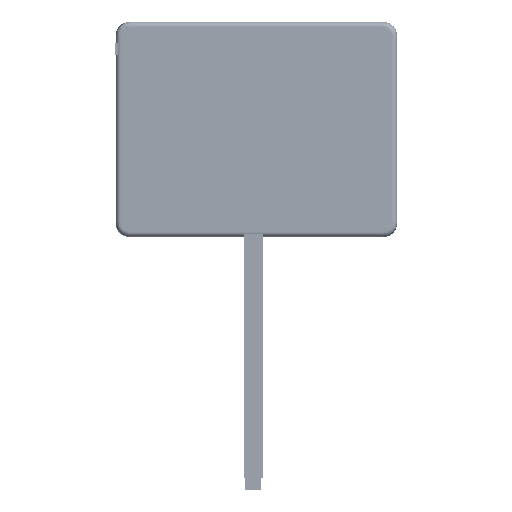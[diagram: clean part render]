
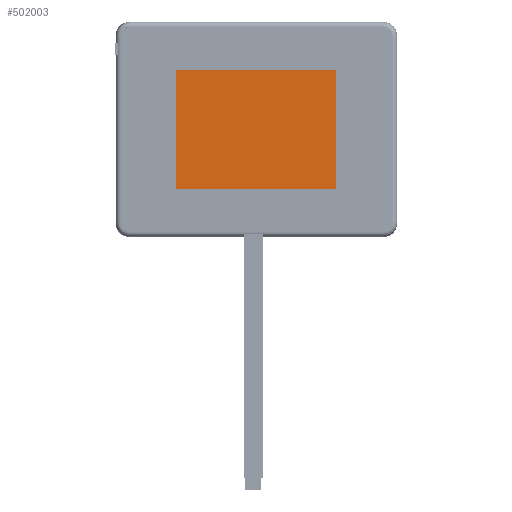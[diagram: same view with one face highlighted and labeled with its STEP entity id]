
A CAD part, top view. The second image highlights one B-rep face of the part: STEP entity #502003.
In plain terms, the highlighted planar face has unit normal (0, 0, 1).
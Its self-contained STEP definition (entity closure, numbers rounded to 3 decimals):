
#6410 = AXIS2_PLACEMENT_3D ( 'NONE', #24966, #488776, #445928 ) ;
#22216 = EDGE_LOOP ( 'NONE', ( #383638, #424828, #115908, #193854 ) ) ;
#24966 = CARTESIAN_POINT ( 'NONE',  ( 0., 0., -0.001 ) ) ;
#40323 = CARTESIAN_POINT ( 'NONE',  ( 57.975, 43.475, -0.001 ) ) ;
#102881 = FACE_OUTER_BOUND ( 'NONE', #22216, .T. ) ;
#106080 = CARTESIAN_POINT ( 'NONE',  ( 57.975, 43.475, -0.001 ) ) ;
#113526 = EDGE_CURVE ( 'NONE', #185213, #485094, #540578, .T. ) ;
#115908 = ORIENTED_EDGE ( 'NONE', *, *, #113526, .T. ) ;
#124148 = DIRECTION ( 'NONE',  ( -1., 0., 0. ) ) ;
#124520 = EDGE_CURVE ( 'NONE', #354725, #185213, #341340, .T. ) ;
#144251 = PLANE ( 'NONE',  #6410 ) ;
#160190 = CARTESIAN_POINT ( 'NONE',  ( -57.975, -43.475, -0.001 ) ) ;
#185213 = VERTEX_POINT ( 'NONE', #426158 ) ;
#193854 = ORIENTED_EDGE ( 'NONE', *, *, #446748, .T. ) ;
#201934 = VERTEX_POINT ( 'NONE', #440356 ) ;
#211871 = DIRECTION ( 'NONE',  ( 0., 1., 0. ) ) ;
#245905 = LINE ( 'NONE', #420538, #472540 ) ;
#279033 = VECTOR ( 'NONE', #323440, 1000. ) ;
#281502 = VECTOR ( 'NONE', #124148, 1000. ) ;
#286089 = CARTESIAN_POINT ( 'NONE',  ( -57.975, -43.475, -0.001 ) ) ;
#298916 = LINE ( 'NONE', #286089, #279033 ) ;
#323440 = DIRECTION ( 'NONE',  ( 1., 0., 0. ) ) ;
#327351 = DIRECTION ( 'NONE',  ( 0., -1., 0. ) ) ;
#341340 = LINE ( 'NONE', #40323, #281502 ) ;
#354725 = VERTEX_POINT ( 'NONE', #106080 ) ;
#383638 = ORIENTED_EDGE ( 'NONE', *, *, #469907, .T. ) ;
#420538 = CARTESIAN_POINT ( 'NONE',  ( 57.975, -43.475, -0.001 ) ) ;
#424828 = ORIENTED_EDGE ( 'NONE', *, *, #124520, .T. ) ;
#426158 = CARTESIAN_POINT ( 'NONE',  ( -57.975, 43.475, -0.001 ) ) ;
#440356 = CARTESIAN_POINT ( 'NONE',  ( 57.975, -43.475, -0.001 ) ) ;
#445928 = DIRECTION ( 'NONE',  ( 1., 0., 0. ) ) ;
#446748 = EDGE_CURVE ( 'NONE', #485094, #201934, #298916, .T. ) ;
#469907 = EDGE_CURVE ( 'NONE', #201934, #354725, #245905, .T. ) ;
#472540 = VECTOR ( 'NONE', #211871, 1000. ) ;
#485094 = VERTEX_POINT ( 'NONE', #160190 ) ;
#488776 = DIRECTION ( 'NONE',  ( 0., 0., 1. ) ) ;
#502003 = ADVANCED_FACE ( 'NONE', ( #102881 ), #144251, .T. ) ;
#527190 = VECTOR ( 'NONE', #327351, 1000. ) ;
#539614 = CARTESIAN_POINT ( 'NONE',  ( -57.975, 43.475, -0.001 ) ) ;
#540578 = LINE ( 'NONE', #539614, #527190 ) ;
